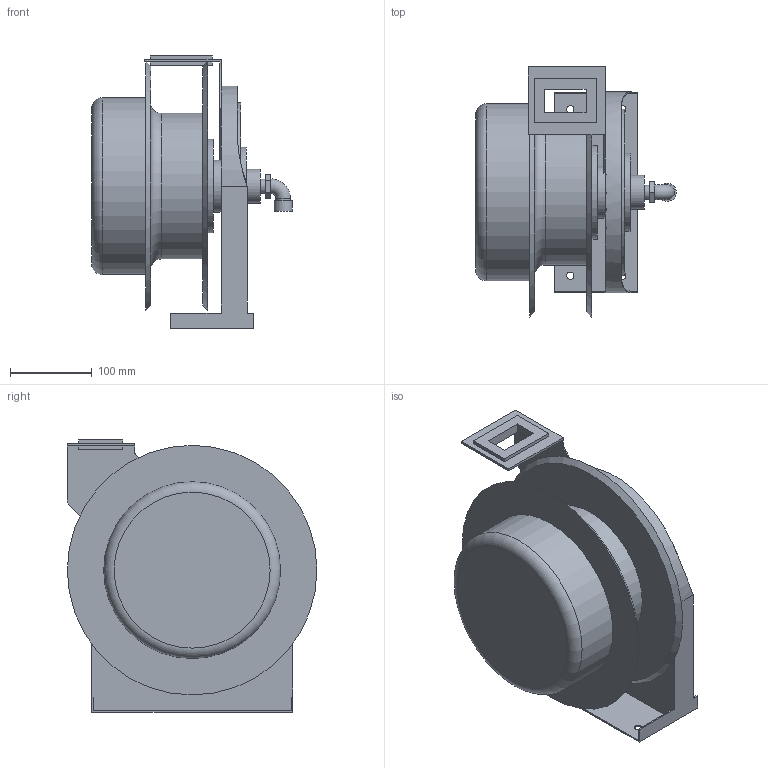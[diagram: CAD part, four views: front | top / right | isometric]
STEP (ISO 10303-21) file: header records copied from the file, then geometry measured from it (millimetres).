
FILE_DESCRIPTION( ( 'Unknown' ), '1' );
FILE_NAME( 'J:/NPD/RE 12893 3D WEB MODELS/L4000 SERIES/L 4000 SERIES.stp', 'Unknown', ( 'Unknown' ), ( 'Unknown' ), 'PSStep 10.1', 'Unknown', ' ' );
FILE_SCHEMA( ( 'AUTOMOTIVE_DESIGN { 1 0 10303 214 1 1 1 1 }' ) );
Length unit declared in the file: millimetre
Products named in the file (1): 1
Bounding box: 244.94 x 305.16 x 332.44 mm (x, y, z)
Volume: 2302269.4 mm3; surface area: 738300.9 mm2
Topology: 1 solids, 2 shells, 101 faces, 239 edges, 160 vertices
Faces by surface type: plane 68, cylinder 24, torus 6, cone 3
Full cylindrical faces by diameter (mm): 8.712 x4, 15.281 x1, 17.145 x1, 17.78 x1, 22.225 x1, 25.4 x1, 41.275 x1, 63.5 x1, 95.25 x1, 114.3 x1, 165.1 x1, 177.8 x1, 203.2 x1, 210.312 x1, 215.9 x1
Entity records: 3566 total; most frequent: CARTESIAN_POINT 508, DIRECTION 462, ORIENTED_EDGE 402, EDGE_CURVE 201, AXIS2_PLACEMENT_3D 163, EDGE_LOOP 156, VERTEX_POINT 149, LINE 136
